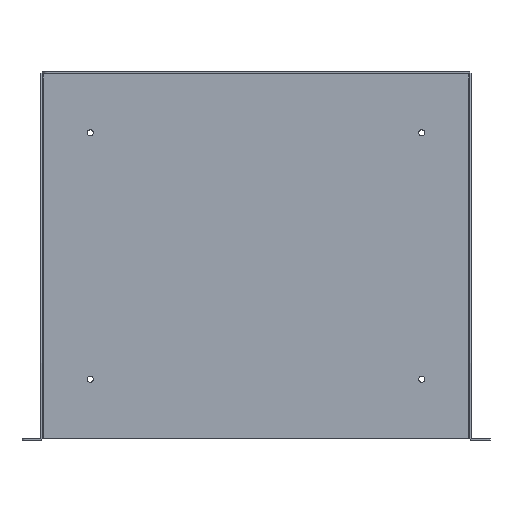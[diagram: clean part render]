
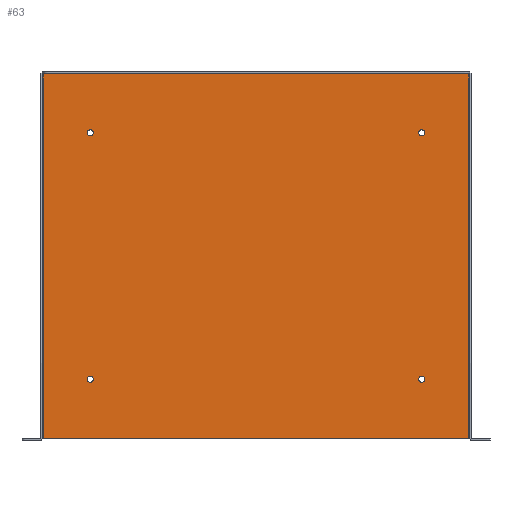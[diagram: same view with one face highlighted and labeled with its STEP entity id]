
A CAD part, top view. The second image highlights one B-rep face of the part: STEP entity #63.
In plain terms, the highlighted planar face has unit normal (0, 0, 1).
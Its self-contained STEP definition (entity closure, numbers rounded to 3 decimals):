
#63 = ADVANCED_FACE( '', ( #189, #190, #191, #192, #193 ), #194, .F. );
#189 = FACE_BOUND( '', #452, .T. );
#190 = FACE_BOUND( '', #453, .T. );
#191 = FACE_BOUND( '', #454, .T. );
#192 = FACE_BOUND( '', #455, .T. );
#193 = FACE_OUTER_BOUND( '', #456, .T. );
#194 = PLANE( '', #457 );
#452 = EDGE_LOOP( '', ( #900 ) );
#453 = EDGE_LOOP( '', ( #901 ) );
#454 = EDGE_LOOP( '', ( #902 ) );
#455 = EDGE_LOOP( '', ( #903 ) );
#456 = EDGE_LOOP( '', ( #904, #905, #906, #907 ) );
#457 = AXIS2_PLACEMENT_3D( '', #908, #909, #910 );
#900 = ORIENTED_EDGE( '', *, *, #1659, .F. );
#901 = ORIENTED_EDGE( '', *, *, #1660, .F. );
#902 = ORIENTED_EDGE( '', *, *, #1661, .F. );
#903 = ORIENTED_EDGE( '', *, *, #1662, .F. );
#904 = ORIENTED_EDGE( '', *, *, #1658, .F. );
#905 = ORIENTED_EDGE( '', *, *, #1663, .T. );
#906 = ORIENTED_EDGE( '', *, *, #1664, .F. );
#907 = ORIENTED_EDGE( '', *, *, #1650, .T. );
#908 = CARTESIAN_POINT( '', ( -222.25, 189.586, 1.829 ) );
#909 = DIRECTION( '', ( 0., 0., -1. ) );
#910 = DIRECTION( '', ( -1., 0., 0. ) );
#1650 = EDGE_CURVE( '', #1992, #1989, #1993, .T. );
#1658 = EDGE_CURVE( '', #1979, #1989, #2004, .T. );
#1659 = EDGE_CURVE( '', #2005, #2005, #2006, .T. );
#1660 = EDGE_CURVE( '', #2007, #2007, #2008, .T. );
#1661 = EDGE_CURVE( '', #2009, #2009, #2010, .T. );
#1662 = EDGE_CURVE( '', #2011, #2011, #2012, .T. );
#1663 = EDGE_CURVE( '', #1979, #2013, #2014, .T. );
#1664 = EDGE_CURVE( '', #1992, #2013, #2015, .T. );
#1979 = VERTEX_POINT( '', #2504 );
#1989 = VERTEX_POINT( '', #2518 );
#1992 = VERTEX_POINT( '', #2521 );
#1993 = LINE( '', #2522, #2523 );
#2004 = LINE( '', #2539, #2540 );
#2005 = VERTEX_POINT( '', #2541 );
#2006 = CIRCLE( '', #2542, 3.175 );
#2007 = VERTEX_POINT( '', #2543 );
#2008 = CIRCLE( '', #2544, 3.175 );
#2009 = VERTEX_POINT( '', #2545 );
#2010 = CIRCLE( '', #2546, 3.175 );
#2011 = VERTEX_POINT( '', #2547 );
#2012 = CIRCLE( '', #2548, 3.175 );
#2013 = VERTEX_POINT( '', #2549 );
#2014 = LINE( '', #2550, #2551 );
#2015 = LINE( '', #2552, #2553 );
#2504 = CARTESIAN_POINT( '', ( 219.507, 186.842, 1.829 ) );
#2518 = CARTESIAN_POINT( '', ( 219.507, -189.586, 1.829 ) );
#2521 = CARTESIAN_POINT( '', ( -219.507, -189.586, 1.829 ) );
#2522 = CARTESIAN_POINT( '', ( -222.25, -189.586, 1.829 ) );
#2523 = VECTOR( '', #3191, 1000. );
#2539 = CARTESIAN_POINT( '', ( 219.507, 189.586, 1.829 ) );
#2540 = VECTOR( '', #3203, 1000. );
#2541 = CARTESIAN_POINT( '', ( -167.869, 126.086, 1.829 ) );
#2542 = AXIS2_PLACEMENT_3D( '', #3204, #3205, #3206 );
#2543 = CARTESIAN_POINT( '', ( 174.219, -127.914, 1.829 ) );
#2544 = AXIS2_PLACEMENT_3D( '', #3207, #3208, #3209 );
#2545 = CARTESIAN_POINT( '', ( 174.219, 126.086, 1.829 ) );
#2546 = AXIS2_PLACEMENT_3D( '', #3210, #3211, #3212 );
#2547 = CARTESIAN_POINT( '', ( -167.869, -127.914, 1.829 ) );
#2548 = AXIS2_PLACEMENT_3D( '', #3213, #3214, #3215 );
#2549 = CARTESIAN_POINT( '', ( -219.507, 186.842, 1.829 ) );
#2550 = CARTESIAN_POINT( '', ( -219.505, 186.842, 1.829 ) );
#2551 = VECTOR( '', #3216, 1000. );
#2552 = CARTESIAN_POINT( '', ( -219.507, -189.586, 1.829 ) );
#2553 = VECTOR( '', #3217, 1000. );
#3191 = DIRECTION( '', ( 1., 0., 0. ) );
#3203 = DIRECTION( '', ( 0., -1., 0. ) );
#3204 = CARTESIAN_POINT( '', ( -171.044, 126.086, 1.829 ) );
#3205 = DIRECTION( '', ( 0., 0., 1. ) );
#3206 = DIRECTION( '', ( 1., 0., 0. ) );
#3207 = CARTESIAN_POINT( '', ( 171.044, -127.914, 1.829 ) );
#3208 = DIRECTION( '', ( 0., 0., 1. ) );
#3209 = DIRECTION( '', ( 1., 0., 0. ) );
#3210 = CARTESIAN_POINT( '', ( 171.044, 126.086, 1.829 ) );
#3211 = DIRECTION( '', ( 0., 0., 1. ) );
#3212 = DIRECTION( '', ( 1., 0., 0. ) );
#3213 = CARTESIAN_POINT( '', ( -171.044, -127.914, 1.829 ) );
#3214 = DIRECTION( '', ( 0., 0., 1. ) );
#3215 = DIRECTION( '', ( 1., 0., 0. ) );
#3216 = DIRECTION( '', ( -1., 0., 0. ) );
#3217 = DIRECTION( '', ( 0., 1., 0. ) );
